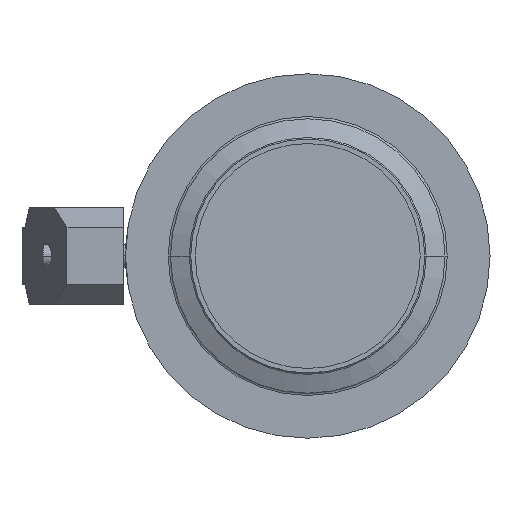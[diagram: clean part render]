
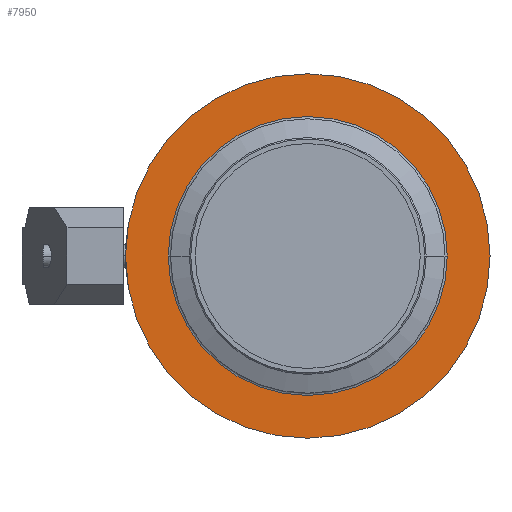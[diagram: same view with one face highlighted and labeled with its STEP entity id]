
A CAD part, left-side view. The second image highlights one B-rep face of the part: STEP entity #7950.
In plain terms, the highlighted planar face has unit normal (-1, 0, 0).
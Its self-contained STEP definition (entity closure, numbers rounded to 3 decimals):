
#7470=CARTESIAN_POINT('',(-449.648,114.146,0.));
#7480=VERTEX_POINT('',#7470);
#7560=CARTESIAN_POINT('',(-449.648,-47.854,
0.));
#7570=VERTEX_POINT('',#7560);
#7600=CARTESIAN_POINT('',(-449.648,33.146,0.));
#7610=DIRECTION('',(1.,0.,0.));
#7620=DIRECTION('',(0.,1.,0.));
#7630=AXIS2_PLACEMENT_3D('',#7600,#7610,#7620);
#7640=CIRCLE('',#7630,81.);
#7650=EDGE_CURVE('',#7480,#7570,#7640,.T.);
#7700=CARTESIAN_POINT('',(-449.648,111.796,0.));
#7710=DIRECTION('',(1.,0.,0.));
#7720=DIRECTION('',(0.,-1.,0.));
#7730=AXIS2_PLACEMENT_3D('',#7700,#7710,#7720);
#7740=PLANE('',#7730);
#7750=CARTESIAN_POINT('',(-449.648,33.146,0.));
#7760=DIRECTION('',(1.,0.,0.));
#7770=DIRECTION('',(0.,-1.,0.));
#7780=AXIS2_PLACEMENT_3D('',#7750,#7760,#7770);
#7790=CIRCLE('',#7780,62.);
#7800=CARTESIAN_POINT('',(-449.648,95.146,0.));
#7810=VERTEX_POINT('',#7800);
#7820=CARTESIAN_POINT('',(-449.648,-28.854,0.));
#7830=VERTEX_POINT('',#7820);
#7840=EDGE_CURVE('',#7810,#7830,#7790,.T.);
#7850=ORIENTED_EDGE('',*,*,#7840,.T.);
#7860=EDGE_CURVE('',#7830,#7810,#7790,.T.);
#7870=ORIENTED_EDGE('',*,*,#7860,.T.);
#7880=EDGE_LOOP('',(#7870,#7850));
#7890=FACE_BOUND('',#7880,.T.);
#7900=EDGE_CURVE('',#7570,#7480,#7640,.T.);
#7910=ORIENTED_EDGE('',*,*,#7900,.F.);
#7920=ORIENTED_EDGE('',*,*,#7650,.F.);
#7930=EDGE_LOOP('',(#7920,#7910));
#7940=FACE_OUTER_BOUND('',#7930,.T.);
#7950=ADVANCED_FACE('',(#7890,#7940),#7740,.F.);
